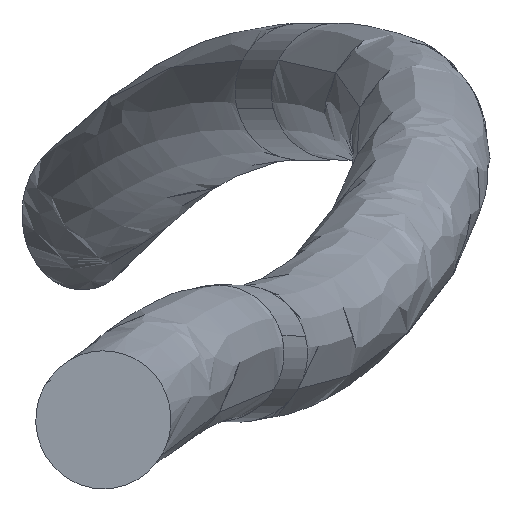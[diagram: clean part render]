
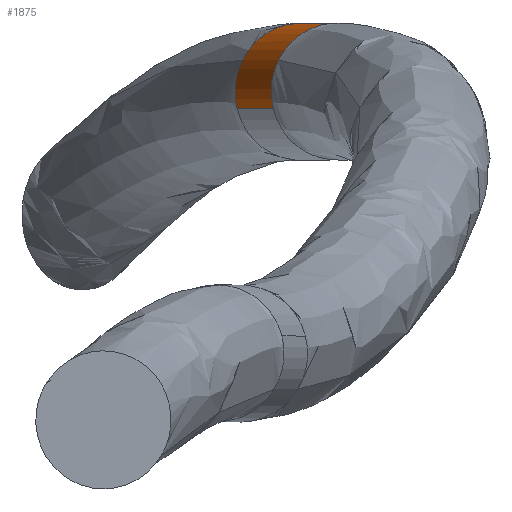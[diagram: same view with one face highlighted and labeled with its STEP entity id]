
A CAD part, top view. The second image highlights one B-rep face of the part: STEP entity #1875.
In plain terms, the highlighted cylindrical face has radius 25 mm (diameter 50 mm), a partial arc.
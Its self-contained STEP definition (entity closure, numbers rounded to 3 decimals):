
#11 = CARTESIAN_POINT ( 'NONE',  ( 377.866, -265.448, 1025.061 ) ) ;
#68 = AXIS2_PLACEMENT_3D ( 'NONE', #92, #2297, #2311 ) ;
#92 = CARTESIAN_POINT ( 'NONE',  ( 391.023, -265.448, 1068.094 ) ) ;
#104 = CARTESIAN_POINT ( 'NONE',  ( 356.627, -253.971, 1031.554 ) ) ;
#140 = DIRECTION ( 'NONE',  ( 0.926, 0.248, -0.283 ) ) ;
#143 = VERTEX_POINT ( 'NONE', #2674 ) ;
#287 = CARTESIAN_POINT ( 'NONE',  ( 377.866, -265.448, 1025.061 ) ) ;
#381 = VERTEX_POINT ( 'NONE', #2084 ) ;
#398 = VECTOR ( 'NONE', #1715, 1000. ) ;
#424 = VERTEX_POINT ( 'NONE', #104 ) ;
#565 = VERTEX_POINT ( 'NONE', #811 ) ;
#698 = CARTESIAN_POINT ( 'NONE',  ( 377.866, -265.448, 1025.061 ) ) ;
#739 = FACE_OUTER_BOUND ( 'NONE', #807, .T. ) ;
#777 = AXIS2_PLACEMENT_3D ( 'NONE', #11, #911, #140 ) ;
#807 = EDGE_LOOP ( 'NONE', ( #877, #1492, #2376, #938, #1733, #1065 ) ) ;
#811 = CARTESIAN_POINT ( 'NONE',  ( 354.707, -271.653, 1032.141 ) ) ;
#818 = LINE ( 'NONE', #2841, #398 ) ;
#877 = ORIENTED_EDGE ( 'NONE', *, *, #1228, .F. ) ;
#911 = DIRECTION ( 'NONE',  ( 0.292, 0., 0.956 ) ) ;
#938 = ORIENTED_EDGE ( 'NONE', *, *, #1278, .T. ) ;
#1050 = CIRCLE ( 'NONE', #2877, 25. ) ;
#1065 = ORIENTED_EDGE ( 'NONE', *, *, #1447, .F. ) ;
#1096 = CIRCLE ( 'NONE', #1668, 25. ) ;
#1228 = EDGE_CURVE ( 'NONE', #565, #424, #2128, .T. ) ;
#1278 = EDGE_CURVE ( 'NONE', #381, #143, #1564, .T. ) ;
#1322 = CARTESIAN_POINT ( 'NONE',  ( 354.707, -271.653, 1032.141 ) ) ;
#1447 = EDGE_CURVE ( 'NONE', #424, #2607, #1050, .T. ) ;
#1492 = ORIENTED_EDGE ( 'NONE', *, *, #1623, .T. ) ;
#1564 = CIRCLE ( 'NONE', #68, 25. ) ;
#1585 = DIRECTION ( 'NONE',  ( 0.292, 0., 0.956 ) ) ;
#1623 = EDGE_CURVE ( 'NONE', #565, #2404, #1807, .T. ) ;
#1634 = CYLINDRICAL_SURFACE ( 'NONE', #777, 25. ) ;
#1668 = AXIS2_PLACEMENT_3D ( 'NONE', #1929, #2824, #1945 ) ;
#1712 = VECTOR ( 'NONE', #1585, 1000. ) ;
#1715 = DIRECTION ( 'NONE',  ( 0.292, 0., 0.956 ) ) ;
#1733 = ORIENTED_EDGE ( 'NONE', *, *, #2266, .F. ) ;
#1807 = LINE ( 'NONE', #1322, #1712 ) ;
#1841 = DIRECTION ( 'NONE',  ( -0.85, 0.459, 0.26 ) ) ;
#1875 = ADVANCED_FACE ( 'NONE', ( #739 ), #1634, .T. ) ;
#1929 = CARTESIAN_POINT ( 'NONE',  ( 391.023, -265.448, 1068.094 ) ) ;
#1945 = DIRECTION ( 'NONE',  ( -0.85, 0.459, 0.26 ) ) ;
#2000 = CARTESIAN_POINT ( 'NONE',  ( 367.864, -271.653, 1075.175 ) ) ;
#2009 = DIRECTION ( 'NONE',  ( -0.292, 0., -0.956 ) ) ;
#2084 = CARTESIAN_POINT ( 'NONE',  ( 369.783, -253.971, 1074.588 ) ) ;
#2116 = DIRECTION ( 'NONE',  ( -0.292, 0., -0.956 ) ) ;
#2128 = CIRCLE ( 'NONE', #2272, 25. ) ;
#2229 = EDGE_CURVE ( 'NONE', #2404, #381, #1096, .T. ) ;
#2266 = EDGE_CURVE ( 'NONE', #2607, #143, #818, .T. ) ;
#2272 = AXIS2_PLACEMENT_3D ( 'NONE', #287, #2116, #1841 ) ;
#2297 = DIRECTION ( 'NONE',  ( -0.292, 0., -0.956 ) ) ;
#2311 = DIRECTION ( 'NONE',  ( -0.85, 0.459, 0.26 ) ) ;
#2339 = CARTESIAN_POINT ( 'NONE',  ( 401.026, -259.242, 1017.98 ) ) ;
#2376 = ORIENTED_EDGE ( 'NONE', *, *, #2229, .T. ) ;
#2404 = VERTEX_POINT ( 'NONE', #2000 ) ;
#2607 = VERTEX_POINT ( 'NONE', #2339 ) ;
#2674 = CARTESIAN_POINT ( 'NONE',  ( 414.183, -259.242, 1061.014 ) ) ;
#2824 = DIRECTION ( 'NONE',  ( -0.292, 0., -0.956 ) ) ;
#2841 = CARTESIAN_POINT ( 'NONE',  ( 401.026, -259.242, 1017.98 ) ) ;
#2875 = DIRECTION ( 'NONE',  ( -0.85, 0.459, 0.26 ) ) ;
#2877 = AXIS2_PLACEMENT_3D ( 'NONE', #698, #2009, #2875 ) ;
